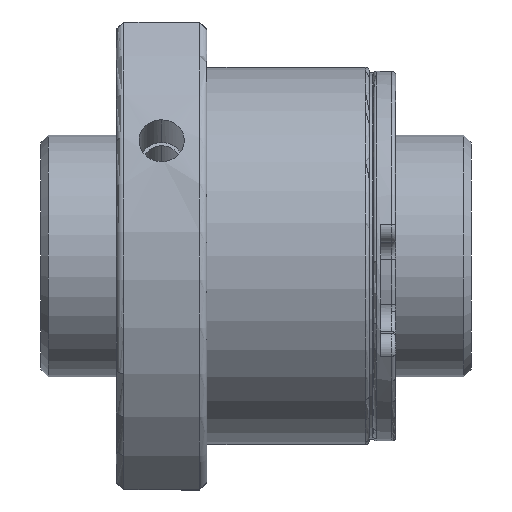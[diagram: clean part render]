
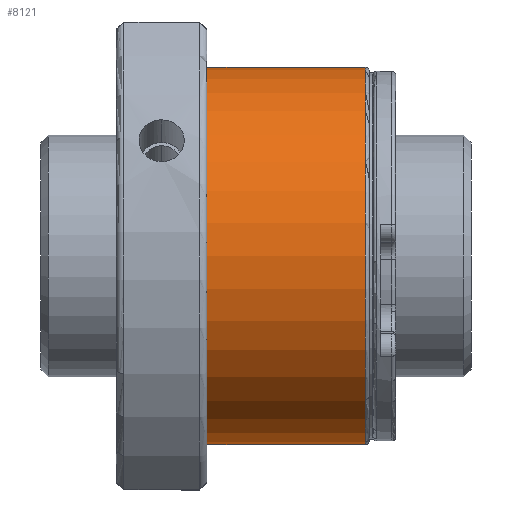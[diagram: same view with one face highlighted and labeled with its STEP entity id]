
A CAD part, front view. The second image highlights one B-rep face of the part: STEP entity #8121.
In plain terms, the highlighted cylindrical face has radius 25 mm (diameter 50 mm), a partial arc.
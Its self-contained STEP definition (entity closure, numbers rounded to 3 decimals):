
#28 = VERTEX_POINT ( 'NONE', #906 ) ;
#118 = DIRECTION ( 'NONE',  ( 1., 0., 0. ) ) ;
#124 = DIRECTION ( 'NONE',  ( 1., 0., 0. ) ) ;
#180 = CARTESIAN_POINT ( 'NONE',  ( 33., 0., 0. ) ) ;
#439 = CIRCLE ( 'NONE', #3849, 25. ) ;
#904 = VERTEX_POINT ( 'NONE', #4074 ) ;
#906 = CARTESIAN_POINT ( 'NONE',  ( 12., 0., 25. ) ) ;
#961 = DIRECTION ( 'NONE',  ( 1., 0., 0. ) ) ;
#1138 = EDGE_CURVE ( 'NONE', #28, #5450, #8962, .T. ) ;
#2229 = CARTESIAN_POINT ( 'NONE',  ( 33., 0., -25. ) ) ;
#2566 = CARTESIAN_POINT ( 'NONE',  ( 12., 0., 25. ) ) ;
#2753 = ORIENTED_EDGE ( 'NONE', *, *, #5025, .T. ) ;
#2912 = DIRECTION ( 'NONE',  ( -1., 0., 0. ) ) ;
#3032 = EDGE_CURVE ( 'NONE', #904, #8907, #3717, .T. ) ;
#3166 = FACE_OUTER_BOUND ( 'NONE', #4608, .T. ) ;
#3177 = VECTOR ( 'NONE', #118, 1000. ) ;
#3616 = ORIENTED_EDGE ( 'NONE', *, *, #6064, .T. ) ;
#3717 = LINE ( 'NONE', #10632, #3177 ) ;
#3796 = DIRECTION ( 'NONE',  ( 0., 0., -1. ) ) ;
#3800 = ORIENTED_EDGE ( 'NONE', *, *, #3032, .T. ) ;
#3849 = AXIS2_PLACEMENT_3D ( 'NONE', #180, #2912, #3796 ) ;
#4074 = CARTESIAN_POINT ( 'NONE',  ( 12., 0., -25. ) ) ;
#4608 = EDGE_LOOP ( 'NONE', ( #9341, #2753, #3800, #3616 ) ) ;
#4710 = VECTOR ( 'NONE', #9875, 1000. ) ;
#5025 = EDGE_CURVE ( 'NONE', #28, #904, #10810, .T. ) ;
#5450 = VERTEX_POINT ( 'NONE', #6000 ) ;
#5475 = CARTESIAN_POINT ( 'NONE',  ( 12., 0., 0. ) ) ;
#6000 = CARTESIAN_POINT ( 'NONE',  ( 33., 0., 25. ) ) ;
#6064 = EDGE_CURVE ( 'NONE', #8907, #5450, #439, .T. ) ;
#7400 = CYLINDRICAL_SURFACE ( 'NONE', #8678, 25. ) ;
#7492 = AXIS2_PLACEMENT_3D ( 'NONE', #5475, #124, #10754 ) ;
#8121 = ADVANCED_FACE ( 'NONE', ( #3166 ), #7400, .T. ) ;
#8678 = AXIS2_PLACEMENT_3D ( 'NONE', #10571, #961, #8825 ) ;
#8825 = DIRECTION ( 'NONE',  ( 0., 0., -1. ) ) ;
#8907 = VERTEX_POINT ( 'NONE', #2229 ) ;
#8962 = LINE ( 'NONE', #2566, #4710 ) ;
#9341 = ORIENTED_EDGE ( 'NONE', *, *, #1138, .F. ) ;
#9875 = DIRECTION ( 'NONE',  ( 1., 0., 0. ) ) ;
#10571 = CARTESIAN_POINT ( 'NONE',  ( 12., 0., 0. ) ) ;
#10632 = CARTESIAN_POINT ( 'NONE',  ( 12., 0., -25. ) ) ;
#10754 = DIRECTION ( 'NONE',  ( 0., 0., -1. ) ) ;
#10810 = CIRCLE ( 'NONE', #7492, 25. ) ;
